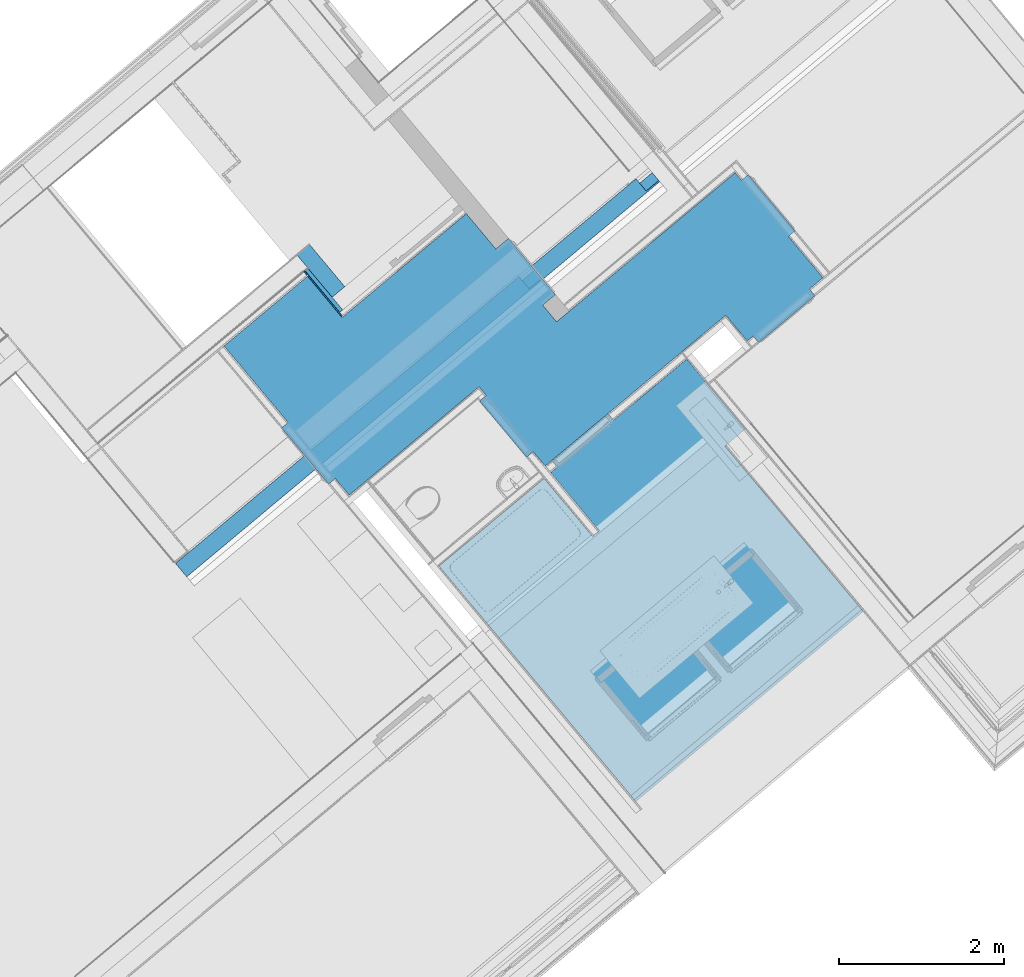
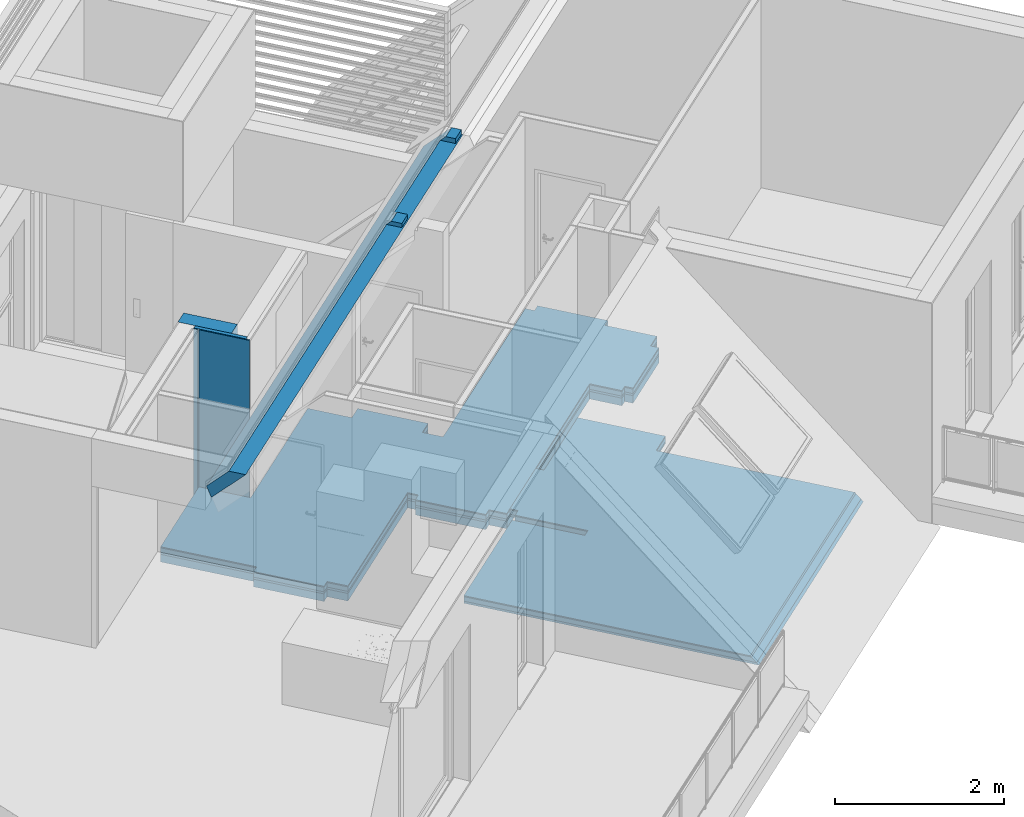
# One storey, part 24 of 47: 11 building element parts, 4 elements without a shape of their own.
"""IFC4 building model written with IfcOpenShell, lengths in metres."""

from ifc_helpers import new_model, entity, si_unit, converted_unit, derived_unit, direction, frame, origin_with_axes, place, context, subcontext, project, spatial, polygons, material, type_object, element, aggregate, save


model = new_model("IFC4")

# Units and contexts
model_context = context("Model", 3, precision=1e-05, world=origin_with_axes(), true_north=direction((0.0, 1.0)))
body_context = subcontext(model_context, "Body", "Model", "MODEL_VIEW")
ifc_project = project(units=[si_unit("LENGTHUNIT", "METRE"), si_unit("AREAUNIT", "SQUARE_METRE"), si_unit("VOLUMEUNIT", "CUBIC_METRE"), converted_unit("PLANEANGLEUNIT", "DEGREE", entity("IfcPlaneAngleMeasure", 0.0174532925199), si_unit("PLANEANGLEUNIT", "RADIAN"), dimensions=[0, 0, 0, 0, 0, 0, 0]), converted_unit("TIMEUNIT", "Year", entity("IfcTimeMeasure", 31556926.0), si_unit("TIMEUNIT", "SECOND"), dimensions=[0, 0, 1, 0, 0, 0, 0]), si_unit("MASSUNIT", "GRAM", prefix="KILO"), si_unit("THERMODYNAMICTEMPERATUREUNIT", "DEGREE_CELSIUS"), si_unit("LUMINOUSINTENSITYUNIT", "LUMEN"), si_unit("ENERGYUNIT", "JOULE", prefix="MEGA"), derived_unit("THERMALCONDUCTANCEUNIT", [(si_unit("POWERUNIT", "WATT"), 1), (si_unit("LENGTHUNIT", "METRE"), -1), (si_unit("THERMODYNAMICTEMPERATUREUNIT", "KELVIN"), -1)]), derived_unit("SPECIFICHEATCAPACITYUNIT", [(si_unit("ENERGYUNIT", "JOULE"), 1), (si_unit("MASSUNIT", "GRAM", prefix="KILO"), -1), (si_unit("THERMODYNAMICTEMPERATUREUNIT", "KELVIN"), -1)]), derived_unit("MASSDENSITYUNIT", [(si_unit("MASSUNIT", "GRAM", prefix="KILO"), 1), (si_unit("VOLUMEUNIT", "CUBIC_METRE"), -1)])], contexts=[model_context])

# Site, building, storey
site_placement = place(None, frame((-0.00153261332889, -0.00661245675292, 0.0), z_axis=(0.0, 0.0, 1.0), x_axis=(1.0, 0.0, 0.0)))
site = spatial("IfcSite", under=ifc_project, at=site_placement, Name="Site", CompositionType="ELEMENT")
building_placement = place(site_placement, origin_with_axes())
building = spatial("IfcBuilding", under=site, at=building_placement, Name="Building", CompositionType="ELEMENT")
storey_placement = place(building_placement, frame((0.0, 0.0, 8.66), z_axis=(0.0, 0.0, 1.0), x_axis=(1.0, 0.0, 0.0)))
storey = spatial("IfcBuildingStorey", under=building, at=storey_placement, Name="DG2", CompositionType="ELEMENT", Elevation=8.66)

# Roof, building element part
roof_type = type_object("IfcRoofType", Name="Schrägdach Dachaufbau 210", PredefinedType="NOTDEFINED")
roof_placement = place(storey_placement, frame((-2.48918849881, 20.2772455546, 1.00050884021), z_axis=(0.0, 0.0, 1.0), x_axis=(0.767406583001, 0.641160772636, 0.0)))
roof = element("IfcRoof", 1, at=roof_placement, inside=storey, type_object=roof_type, Name="Dach-001", PredefinedType="NOTDEFINED")
ifc_material_1 = material(Name="EPS 1")
building_element_part_1_placement = place(roof_placement, origin_with_axes())
building_element_part_1 = element("IfcBuildingElementPart", 2, at=building_element_part_1_placement, material=ifc_material_1, Name="EPS 1", PredefinedType="NOTDEFINED", context=body_context, shape_type="Tessellation", body=[
    polygons([(7.69581457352, -2.10143885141, 2.18949115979), (7.69581829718, -2.10143885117, 2.11949115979), (7.69581733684, -2.11949115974, 2.11949115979), (7.69586340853, -1.68644110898, 1.68644110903), (7.69585873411, -1.6243090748, 1.83644110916), (7.69582117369, -1.97735912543, 2.18949115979), (7.49584420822, -2.10145155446, 2.18949115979), (7.49584420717, -2.10145155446, 2.11949115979), (5.84511892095, -2.1015564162, 2.11949115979), (5.64511890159, -2.10156912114, 2.11949115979), (5.64519289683, -1.90735912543, 2.11949115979), (0.215441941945, -1.90735912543, 2.11949115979), (0.215482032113, -2.11949115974, 2.11949115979), (7.49591627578, -1.90735912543, 2.11949115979), (5.84519291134, -1.90735912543, 2.11949115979), (0.215318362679, -1.68647600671, 1.68647600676), (0.215334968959, -1.62434397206, 1.83647600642), (7.49589028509, -1.97735912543, 2.18949115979), (5.64517003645, -1.96735912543, 2.17949115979), (5.84517005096, -1.96735912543, 2.17949115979), (5.84511892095, -2.1015564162, 2.17949115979), (5.64511890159, -2.10156912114, 2.17949115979)], [[[1, 2, 3, 4, 5, 6]], [[2, 1, 7, 8]], [[9, 10, 11, 12, 13, 3, 2, 8, 14, 15]], [[3, 13, 16, 4]], [[17, 5, 4, 16]], [[18, 6, 5, 17, 12, 11, 19, 20, 15, 14]], [[7, 1, 6, 18]], [[8, 7, 18, 14]], [[9, 21, 22, 10]], [[10, 22, 19, 11]], [[13, 12, 17, 16]], [[21, 9, 15, 20]], [[22, 21, 20, 19]]], closed=True),
])
aggregate(roof, [building_element_part_1])

# Wall, building element parts
wall_type = type_object("IfcWallType", Name="LB 6,5 cm einfach Vorsatzschale + STB 265", PredefinedType="NOTDEFINED")
wall_placement = place(storey_placement, frame((0.750369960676, 22.1398291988, 0.0), z_axis=(0.0, 0.0, 1.0), x_axis=(-0.641209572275, 0.76736580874, 0.0)))
wall = element("IfcWall", 3, at=wall_placement, inside=storey, type_object=wall_type, Name="Wand-003", PredefinedType="NOTDEFINED")
ifc_material_2 = material(Name="Gipskarton")
building_element_part_2_placement = place(wall_placement, origin_with_axes())
building_element_part_2 = element("IfcBuildingElementPart", 4, at=building_element_part_2_placement, material=ifc_material_2, Name="Gipskarton", PredefinedType="NOTDEFINED", context=body_context, shape_type="Tessellation", body=[
    polygons([(0.457885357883, 0.0, 0.0), (0.457885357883, 2.23517560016e-09, 2.49), (0.457885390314, -0.0149999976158, 2.49), (0.457885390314, -0.015, 0.0), (0.402903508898, 0.0, 0.0), (0.402903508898, 2.23517560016e-09, 2.48999999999), (0.402902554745, -0.0149999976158, 2.48999999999), (0.402902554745, -0.015, 0.0)], [[[1, 2, 3, 4]], [[5, 6, 2, 1]], [[2, 6, 7, 3]], [[4, 3, 7, 8]], [[5, 1, 4, 8]], [[6, 5, 8, 7]]], closed=True),
    polygons([(0.387903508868, 2.23517560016e-09, 2.48999999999), (0.387903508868, 0.0, 0.0), (-0.25, 0.0, 0.0), (-0.25, 2.0594548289e-10, 2.49), (0.387902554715, -0.0149999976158, 2.48999999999), (0.387902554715, -0.015, 0.0), (-0.25, -0.015, 0.0), (-0.25, -0.0149999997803, 2.49)], [[[1, 2, 3, 4]], [[2, 1, 5, 6]], [[3, 2, 6, 7]], [[4, 3, 7, 8]], [[1, 4, 8, 5]], [[6, 5, 8, 7]]], closed=True),
])
ifc_material_3 = material(Name="Mineralwolle weich")
building_element_part_3_placement = place(wall_placement, origin_with_axes())
building_element_part_3 = element("IfcBuildingElementPart", 5, at=building_element_part_3_placement, material=ifc_material_3, Name="Mineralwolle weich", PredefinedType="NOTDEFINED", context=body_context, shape_type="Tessellation", body=[
    polygons([(0.457885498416, -0.064999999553, 2.49), (0.457885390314, -0.0149999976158, 2.49), (-0.2, -0.0149999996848, 2.49), (-0.2, -0.0649999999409, 2.49), (0.457885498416, -0.065, 0.0), (0.457885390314, -0.015, 0.0), (-0.2, -0.015, 0.0), (-0.2, -0.065, 0.0)], [[[1, 2, 3, 4]], [[2, 1, 5, 6]], [[2, 6, 7, 3]], [[3, 7, 8, 4]], [[4, 8, 5, 1]], [[6, 5, 8, 7]]], closed=True),
])
ifc_material_4 = material(Name="Stahlbeton Wand")
building_element_part_4_placement = place(wall_placement, origin_with_axes())
building_element_part_4 = element("IfcBuildingElementPart", 6, at=building_element_part_4_placement, material=ifc_material_4, Name="Stahlbeton Wand", PredefinedType="NOTDEFINED", context=body_context, shape_type="Tessellation", body=[
    polygons([(0.462885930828, -0.265000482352, 2.49), (0.662885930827, -0.265000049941, 2.49), (0.677885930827, -0.265000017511, 2.49), (0.0, -0.265, 2.49), (0.0, -0.265, 0.0), (0.462885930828, -0.265000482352, 0.0), (0.462885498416, -0.064999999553, 2.49), (0.662885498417, -0.064999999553, 2.49), (0.677885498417, -0.0649999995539, 2.49), (0.677885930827, -0.265000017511, 2.49), (0.677885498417, -0.0649999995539, 2.49), (0.0, -0.0649999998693, 2.49), (0.0, -0.065, 0.0), (0.462885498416, -0.065, 0.0)], [[[1, 2, 3, 4, 5, 6]], [[2, 1, 7, 8]], [[2, 8, 9, 3]], [[10, 11, 12, 4]], [[5, 4, 12, 13]], [[14, 6, 5, 13]], [[1, 6, 14, 7]], [[7, 14, 13, 12, 11, 8]]], closed=False),
])
aggregate(wall, [building_element_part_2, building_element_part_3, building_element_part_4])

# Covering, building element parts
covering_type = type_object("IfcCoveringType", Name="DE 01 Decke Wohnung/Wohnung Fließen 220", PredefinedType="NOTDEFINED")
covering_1_placement = place(storey_placement, frame((-0.512281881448, 21.5903619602, 0.22), z_axis=(0.0, 0.0, 1.0), x_axis=(1.0, 0.0, 0.0)))
covering_1 = element("IfcCovering", 7, at=covering_1_placement, inside=storey, type_object=covering_type, Name="Decke-004", PredefinedType="NOTDEFINED")
ifc_material_5 = material(Name="Fliesen")
building_element_part_5_placement = place(covering_1_placement, origin_with_axes())
building_element_part_5 = element("IfcBuildingElementPart", 8, at=building_element_part_5_placement, material=ifc_material_5, Name="Fliesen", PredefinedType="NOTDEFINED", context=body_context, shape_type="Tessellation", body=[
    polygons([(0.697399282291, -0.994941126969, -0.015), (1.26931301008, -1.67686102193, -0.015), (1.26931301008, -1.67686102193, 0.0), (0.697399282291, -0.994941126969, 0.0), (0.777850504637, -0.927468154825, -0.015), (0.0, 0.0, -0.015), (1.00913106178, 0.843125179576, -0.015), (1.01392494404, 0.847130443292, -0.015), (1.42295423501, 0.357625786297, -0.015), (1.43208123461, 0.346703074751, -0.015), (1.43257237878, 0.346115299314, -0.015), (2.67114469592, 1.38106423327, -0.015), (2.94076864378, 1.60614434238, -0.015), (3.29799445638, 1.17824883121, -0.015), (3.29801715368, 1.17827549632, -0.015), (3.45152463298, 1.30642248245, -0.015), (3.45155114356, 1.30644458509, -0.015), (4.02190344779, 0.623218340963, -0.015), (3.86836945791, 0.49504925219, -0.015), (4.03594835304, 0.29430602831, -0.015), (6.2030162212, 2.103358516, -0.015), (6.27925010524, 2.0121231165, -0.015), (6.35982447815, 2.07944889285, -0.015), (6.93049131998, 1.39648530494, -0.015), (6.84991694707, 1.32915942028, -0.015), (7.26867794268, 0.827993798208, -0.015), (7.10397840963, 0.690371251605, -0.015), (7.17130548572, 0.609797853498, -0.015), (6.48834980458, 0.0391213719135, -0.015), (6.42102283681, 0.119694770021, -0.015), (6.34875262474, 0.0593058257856, -0.015), (6.0975408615, 0.361146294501, -0.015), (6.09756346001, 0.361165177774, -0.015), (6.08796586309, 0.372651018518, -0.015), (6.0764348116, 0.363057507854, -0.015), (6.01642744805, 0.312915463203, -0.015), (3.89695327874, -1.4568744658, -0.015), (3.75186403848, -1.2832433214, -0.015), (3.67129139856, -1.35057126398, -0.015), (3.10060711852, -0.667622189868, -0.015), (3.18117975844, -0.600294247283, -0.015), (3.09378704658, -0.495709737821, -0.015), (1.51874814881, -1.81087559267, -0.015), (1.34976423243, -1.60938804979, -0.015), (1.34976423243, -1.60938804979, 0.0), (1.51874814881, -1.81087559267, 0.0), (3.09378704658, -0.495709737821, 0.0), (3.18117975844, -0.600294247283, 0.0), (3.10060711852, -0.667622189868, 0.0), (3.67129139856, -1.35057126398, 0.0), (3.75186403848, -1.2832433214, 0.0), (3.89695327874, -1.4568744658, 0.0), (6.01642744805, 0.312915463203, 0.0), (6.0764348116, 0.363057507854, 0.0), (6.08794747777, 0.372635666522, 0.0), (6.08796586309, 0.372651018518, 0.0), (6.09756346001, 0.361165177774, 0.0), (6.0975408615, 0.361146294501, 0.0), (6.34875262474, 0.0593058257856, 0.0), (6.42102283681, 0.119694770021, 0.0), (6.48834980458, 0.0391213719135, 0.0), (7.17130548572, 0.609797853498, 0.0), (7.10397840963, 0.690371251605, 0.0), (7.26867794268, 0.827993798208, 0.0), (6.84991694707, 1.32915942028, 0.0), (6.93049131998, 1.39648530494, 0.0), (6.35982447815, 2.07944889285, 0.0), (6.27925010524, 2.0121231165, 0.0), (6.2030162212, 2.103358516, 0.0), (4.03594835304, 0.29430602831, 0.0), (3.86836945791, 0.49504925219, 0.0), (4.02190344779, 0.623218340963, 0.0), (3.45155114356, 1.30644458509, 0.0), (3.45152463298, 1.30642248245, 0.0), (3.29801715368, 1.17827549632, 0.0), (3.29799445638, 1.17824883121, 0.0), (2.94076864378, 1.60614434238, 0.0), (2.67114469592, 1.38106423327, 0.0), (1.43257237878, 0.346115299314, 0.0), (1.43208123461, 0.346703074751, 0.0), (1.42295423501, 0.357625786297, 0.0), (1.01392494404, 0.847130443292, 0.0), (1.00913106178, 0.843125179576, 0.0), (0.0, 0.0, 0.0), (0.777850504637, -0.927468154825, 0.0)], [[[1, 2, 3, 4]], [[2, 1, 5, 6, 7, 8, 9, 10, 11, 12, 13, 14, 15, 16, 17, 18, 19, 20, 21, 22, 23, 24, 25, 26, 27, 28, 29, 30, 31, 32, 33, 34, 35, 36, 37, 38, 39, 40, 41, 42, 43, 44]], [[2, 44, 45, 3]], [[4, 3, 45, 46, 47, 48, 49, 50, 51, 52, 53, 54, 55, 56, 57, 58, 59, 60, 61, 62, 63, 64, 65, 66, 67, 68, 69, 70, 71, 72, 73, 74, 75, 76, 77, 78, 79, 80, 81, 82, 83, 84, 85]], [[1, 4, 85, 5]], [[6, 5, 85, 84]], [[6, 84, 83, 82, 8, 7]], [[81, 9, 8, 82]], [[80, 10, 9, 81]], [[11, 10, 80, 79]], [[11, 79, 78, 12]], [[13, 12, 78, 77]], [[76, 14, 13, 77]], [[15, 14, 76, 75]], [[16, 15, 75, 74]], [[16, 74, 73, 17]], [[18, 17, 73, 72]], [[71, 19, 18, 72]], [[20, 19, 71, 70]], [[20, 70, 69, 21]], [[21, 69, 68, 22]], [[23, 22, 68, 67]], [[23, 67, 66, 24]], [[65, 25, 24, 66]], [[64, 26, 25, 65]], [[27, 26, 64, 63]], [[62, 28, 27, 63]], [[29, 28, 62, 61]], [[30, 29, 61, 60]], [[31, 30, 60, 59]], [[58, 32, 31, 59]], [[32, 58, 57, 33]], [[34, 33, 57, 56]], [[35, 34, 56, 55, 54]], [[53, 36, 35, 54]], [[37, 36, 53, 52]], [[38, 37, 52, 51]], [[39, 38, 51, 50]], [[40, 39, 50, 49]], [[41, 40, 49, 48]], [[41, 48, 47, 42]], [[46, 43, 42, 47]], [[45, 44, 43, 46]]], closed=True),
])
ifc_material_6 = material(Name="Estrich")
building_element_part_6_placement = place(covering_1_placement, origin_with_axes())
building_element_part_6 = element("IfcBuildingElementPart", 9, at=building_element_part_6_placement, material=ifc_material_6, Name="Estrich", PredefinedType="NOTDEFINED", context=body_context, shape_type="Tessellation", body=[
    polygons([(0.697399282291, -0.994941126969, -0.08), (1.26931301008, -1.67686102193, -0.08), (1.26931301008, -1.67686102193, -0.015), (0.697399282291, -0.994941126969, -0.015), (0.777850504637, -0.927468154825, -0.08), (0.0, 0.0, -0.08), (1.00913106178, 0.843125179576, -0.08), (1.01392494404, 0.847130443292, -0.08), (1.42295423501, 0.357625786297, -0.08), (1.43208123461, 0.346703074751, -0.08), (1.43257237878, 0.346115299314, -0.08), (2.67114469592, 1.38106423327, -0.08), (2.94076864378, 1.60614434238, -0.08), (3.29799445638, 1.17824883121, -0.08), (3.29801715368, 1.17827549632, -0.08), (3.45152463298, 1.30642248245, -0.08), (3.45155114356, 1.30644458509, -0.08), (4.02190344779, 0.623218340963, -0.08), (3.86836945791, 0.49504925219, -0.08), (4.03594835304, 0.29430602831, -0.08), (6.2030162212, 2.103358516, -0.08), (6.27925010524, 2.0121231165, -0.08), (6.35982447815, 2.07944889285, -0.08), (6.93049131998, 1.39648530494, -0.08), (6.84991694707, 1.32915942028, -0.08), (7.26867794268, 0.827993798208, -0.08), (7.10397840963, 0.690371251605, -0.08), (7.17130548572, 0.609797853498, -0.08), (6.48834980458, 0.0391213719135, -0.08), (6.42102283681, 0.119694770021, -0.08), (6.34875262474, 0.0593058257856, -0.08), (6.0975408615, 0.361146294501, -0.08), (6.09756346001, 0.361165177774, -0.08), (6.08796586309, 0.372651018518, -0.08), (6.0764348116, 0.363057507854, -0.08), (6.01642744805, 0.312915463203, -0.08), (3.89695327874, -1.4568744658, -0.08), (3.75186403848, -1.2832433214, -0.08), (3.67129139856, -1.35057126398, -0.08), (3.10060711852, -0.667622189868, -0.08), (3.18117975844, -0.600294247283, -0.08), (3.09378704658, -0.495709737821, -0.08), (1.51874814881, -1.81087559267, -0.08), (1.34976423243, -1.60938804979, -0.08), (1.34976423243, -1.60938804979, -0.015), (1.51874814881, -1.81087559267, -0.015), (3.09378704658, -0.495709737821, -0.015), (3.18117975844, -0.600294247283, -0.015), (3.10060711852, -0.667622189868, -0.015), (3.67129139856, -1.35057126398, -0.015), (3.75186403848, -1.2832433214, -0.015), (3.89695327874, -1.4568744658, -0.015), (6.01642744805, 0.312915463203, -0.015), (6.0764348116, 0.363057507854, -0.015), (6.08796586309, 0.372651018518, -0.015), (6.09756346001, 0.361165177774, -0.015), (6.0975408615, 0.361146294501, -0.015), (6.34875262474, 0.0593058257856, -0.015), (6.42102283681, 0.119694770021, -0.015), (6.48834980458, 0.0391213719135, -0.015), (7.17130548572, 0.609797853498, -0.015), (7.10397840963, 0.690371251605, -0.015), (7.26867794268, 0.827993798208, -0.015), (6.84991694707, 1.32915942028, -0.015), (6.93049131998, 1.39648530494, -0.015), (6.35982447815, 2.07944889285, -0.015), (6.27925010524, 2.0121231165, -0.015), (6.2030162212, 2.103358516, -0.015), (4.03594835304, 0.29430602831, -0.015), (3.86836945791, 0.49504925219, -0.015), (4.02190344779, 0.623218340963, -0.015), (3.45155114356, 1.30644458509, -0.015), (3.45152463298, 1.30642248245, -0.015), (3.29801715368, 1.17827549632, -0.015), (3.29799445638, 1.17824883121, -0.015), (2.94076864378, 1.60614434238, -0.015), (2.67114469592, 1.38106423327, -0.015), (1.43257237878, 0.346115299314, -0.015), (1.43208123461, 0.346703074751, -0.015), (1.42295423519, 0.357625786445, -0.015), (1.01392494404, 0.847130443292, -0.015), (1.00913106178, 0.843125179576, -0.015), (0.0, 0.0, -0.015), (0.777850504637, -0.927468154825, -0.015)], [[[1, 2, 3, 4]], [[2, 1, 5, 6, 7, 8, 9, 10, 11, 12, 13, 14, 15, 16, 17, 18, 19, 20, 21, 22, 23, 24, 25, 26, 27, 28, 29, 30, 31, 32, 33, 34, 35, 36, 37, 38, 39, 40, 41, 42, 43, 44]], [[2, 44, 45, 3]], [[4, 3, 45, 46, 47, 48, 49, 50, 51, 52, 53, 54, 55, 56, 57, 58, 59, 60, 61, 62, 63, 64, 65, 66, 67, 68, 69, 70, 71, 72, 73, 74, 75, 76, 77, 78, 79, 80, 81, 82, 83, 84]], [[1, 4, 84, 5]], [[6, 5, 84, 83]], [[6, 83, 82, 81, 8, 7]], [[9, 8, 81, 80]], [[79, 10, 9, 80]], [[11, 10, 79, 78]], [[11, 78, 77, 12]], [[13, 12, 77, 76]], [[75, 14, 13, 76]], [[15, 14, 75, 74]], [[16, 15, 74, 73]], [[16, 73, 72, 17]], [[18, 17, 72, 71]], [[70, 19, 18, 71]], [[20, 19, 70, 69]], [[20, 69, 68, 21]], [[21, 68, 67, 22]], [[23, 22, 67, 66]], [[65, 24, 23, 66]], [[64, 25, 24, 65]], [[63, 26, 25, 64]], [[27, 26, 63, 62]], [[61, 28, 27, 62]], [[29, 28, 61, 60]], [[30, 29, 60, 59]], [[31, 30, 59, 58]], [[57, 32, 31, 58]], [[32, 57, 56, 33]], [[33, 56, 55, 34]], [[35, 34, 55, 54]], [[53, 36, 35, 54]], [[37, 36, 53, 52]], [[38, 37, 52, 51]], [[39, 38, 51, 50]], [[40, 39, 50, 49]], [[41, 40, 49, 48]], [[41, 48, 47, 42]], [[46, 43, 42, 47]], [[45, 44, 43, 46]]], closed=True),
])
ifc_material_7 = material(Name="Trittschalldämmung")
building_element_part_7_placement = place(covering_1_placement, origin_with_axes())
building_element_part_7 = element("IfcBuildingElementPart", 10, at=building_element_part_7_placement, material=ifc_material_7, Name="Trittschalldämmung", PredefinedType="NOTDEFINED", context=body_context, shape_type="Tessellation", body=[
    polygons([(0.697399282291, -0.994941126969, -0.11), (1.26931301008, -1.67686102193, -0.11), (1.26931301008, -1.67686102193, -0.08), (0.697399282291, -0.994941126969, -0.08), (0.777850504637, -0.927468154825, -0.11), (0.0, 0.0, -0.11), (1.00913106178, 0.843125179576, -0.11), (1.01392494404, 0.847130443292, -0.11), (1.42295423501, 0.357625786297, -0.11), (1.43208123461, 0.346703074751, -0.11), (1.43257237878, 0.346115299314, -0.11), (2.67114469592, 1.38106423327, -0.11), (2.94076864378, 1.60614434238, -0.11), (3.29799445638, 1.17824883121, -0.11), (3.29801715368, 1.17827549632, -0.11), (3.45152463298, 1.30642248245, -0.11), (3.45155114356, 1.30644458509, -0.11), (4.02190344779, 0.623218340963, -0.11), (3.86836945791, 0.49504925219, -0.11), (4.03594835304, 0.29430602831, -0.11), (6.2030162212, 2.103358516, -0.11), (6.27925010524, 2.0121231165, -0.11), (6.35982447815, 2.07944889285, -0.11), (6.93049131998, 1.39648530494, -0.11), (6.84991694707, 1.32915942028, -0.11), (7.26867794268, 0.827993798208, -0.11), (7.10397840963, 0.690371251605, -0.11), (7.17130548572, 0.609797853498, -0.11), (6.48834980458, 0.0391213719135, -0.11), (6.42102283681, 0.119694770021, -0.11), (6.34875262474, 0.0593058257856, -0.11), (6.0975408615, 0.361146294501, -0.11), (6.09756346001, 0.361165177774, -0.11), (6.08796586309, 0.372651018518, -0.11), (6.0764348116, 0.363057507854, -0.11), (6.01642744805, 0.312915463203, -0.11), (3.89695327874, -1.4568744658, -0.11), (3.75186403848, -1.2832433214, -0.11), (3.67129139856, -1.35057126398, -0.11), (3.10060711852, -0.667622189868, -0.11), (3.18117975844, -0.600294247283, -0.11), (3.09378704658, -0.495709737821, -0.11), (1.51874814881, -1.81087559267, -0.11), (1.34976423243, -1.60938804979, -0.11), (1.34976423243, -1.60938804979, -0.08), (1.51874814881, -1.81087559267, -0.08), (3.09378704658, -0.495709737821, -0.08), (3.18117975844, -0.600294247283, -0.08), (3.10060711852, -0.667622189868, -0.08), (3.67129139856, -1.35057126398, -0.08), (3.75186403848, -1.2832433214, -0.08), (3.89695327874, -1.4568744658, -0.08), (6.01642744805, 0.312915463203, -0.08), (6.0764348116, 0.363057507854, -0.08), (6.08796586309, 0.372651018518, -0.08), (6.09756346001, 0.361165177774, -0.08), (6.0975408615, 0.361146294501, -0.08), (6.34875262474, 0.0593058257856, -0.08), (6.42102283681, 0.119694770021, -0.08), (6.48834980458, 0.0391213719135, -0.08), (7.17130548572, 0.609797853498, -0.08), (7.10397840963, 0.690371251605, -0.08), (7.26867794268, 0.827993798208, -0.08), (6.84991694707, 1.32915942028, -0.08), (6.93049131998, 1.39648530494, -0.08), (6.35982447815, 2.07944889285, -0.08), (6.27925010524, 2.0121231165, -0.08), (6.2030162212, 2.103358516, -0.08), (4.03594835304, 0.29430602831, -0.08), (3.86836945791, 0.49504925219, -0.08), (4.02190344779, 0.623218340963, -0.08), (3.45155114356, 1.30644458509, -0.08), (3.45152463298, 1.30642248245, -0.08), (3.29801715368, 1.17827549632, -0.08), (3.29799445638, 1.17824883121, -0.08), (2.94076864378, 1.60614434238, -0.08), (2.67114469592, 1.38106423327, -0.08), (1.43257237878, 0.346115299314, -0.08), (1.43208123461, 0.346703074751, -0.08), (1.42295423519, 0.357625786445, -0.08), (1.01392494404, 0.847130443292, -0.08), (1.00913106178, 0.843125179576, -0.08), (0.0, 0.0, -0.08), (0.777850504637, -0.927468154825, -0.08)], [[[1, 2, 3, 4]], [[2, 1, 5, 6, 7, 8, 9, 10, 11, 12, 13, 14, 15, 16, 17, 18, 19, 20, 21, 22, 23, 24, 25, 26, 27, 28, 29, 30, 31, 32, 33, 34, 35, 36, 37, 38, 39, 40, 41, 42, 43, 44]], [[2, 44, 45, 3]], [[4, 3, 45, 46, 47, 48, 49, 50, 51, 52, 53, 54, 55, 56, 57, 58, 59, 60, 61, 62, 63, 64, 65, 66, 67, 68, 69, 70, 71, 72, 73, 74, 75, 76, 77, 78, 79, 80, 81, 82, 83, 84]], [[1, 4, 84, 5]], [[6, 5, 84, 83]], [[6, 83, 82, 81, 8, 7]], [[9, 8, 81, 80]], [[79, 10, 9, 80]], [[11, 10, 79, 78]], [[11, 78, 77, 12]], [[13, 12, 77, 76]], [[75, 14, 13, 76]], [[15, 14, 75, 74]], [[16, 15, 74, 73]], [[16, 73, 72, 17]], [[18, 17, 72, 71]], [[70, 19, 18, 71]], [[20, 19, 70, 69]], [[20, 69, 68, 21]], [[21, 68, 67, 22]], [[23, 22, 67, 66]], [[65, 24, 23, 66]], [[64, 25, 24, 65]], [[63, 26, 25, 64]], [[63, 62, 27, 26]], [[61, 28, 27, 62]], [[29, 28, 61, 60]], [[30, 29, 60, 59]], [[31, 30, 59, 58]], [[57, 32, 31, 58]], [[32, 57, 56, 33]], [[34, 33, 56, 55]], [[35, 34, 55, 54]], [[53, 36, 35, 54]], [[37, 36, 53, 52]], [[38, 37, 52, 51]], [[39, 38, 51, 50]], [[40, 39, 50, 49]], [[41, 40, 49, 48]], [[41, 48, 47, 42]], [[46, 43, 42, 47]], [[45, 44, 43, 46]]], closed=True),
])
ifc_material_8 = material(Name="Schüttung")
building_element_part_8_placement = place(covering_1_placement, origin_with_axes())
building_element_part_8 = element("IfcBuildingElementPart", 11, at=building_element_part_8_placement, material=ifc_material_8, Name="Schüttung", PredefinedType="NOTDEFINED", context=body_context, shape_type="Tessellation", body=[
    polygons([(0.697399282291, -0.994941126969, -0.22), (1.26931301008, -1.67686102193, -0.22), (1.26931301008, -1.67686102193, -0.11), (0.697399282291, -0.994941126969, -0.11), (0.777850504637, -0.927468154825, -0.22), (0.0, 0.0, -0.22), (1.00913106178, 0.843125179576, -0.22), (1.01392494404, 0.847130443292, -0.22), (1.42295423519, 0.357625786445, -0.22), (1.43208123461, 0.346703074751, -0.22), (1.43257237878, 0.346115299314, -0.22), (2.67114469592, 1.38106423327, -0.22), (2.94076864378, 1.60614434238, -0.22), (3.29799445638, 1.17824883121, -0.22), (3.29801715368, 1.17827549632, -0.22), (3.4515246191, 1.30642249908, -0.22), (3.45155114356, 1.30644458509, -0.22), (4.02190344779, 0.623218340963, -0.22), (3.86836945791, 0.49504925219, -0.22), (4.03594835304, 0.29430602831, -0.22), (6.2030162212, 2.103358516, -0.22), (6.27925010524, 2.0121231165, -0.22), (6.35982447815, 2.07944889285, -0.22), (6.93049131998, 1.39648530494, -0.22), (6.84991694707, 1.32915942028, -0.22), (7.26867794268, 0.827993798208, -0.22), (7.10397840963, 0.690371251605, -0.22), (7.17130548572, 0.609797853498, -0.22), (6.48834980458, 0.0391213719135, -0.22), (6.42102283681, 0.119694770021, -0.22), (6.34875262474, 0.0593058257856, -0.22), (6.09754084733, 0.36114628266, -0.22), (6.09756346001, 0.361165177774, -0.22), (6.08796586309, 0.372651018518, -0.22), (6.08794747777, 0.372635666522, -0.22), (6.0764348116, 0.363057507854, -0.22), (6.01642744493, 0.312915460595, -0.22), (3.89695327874, -1.4568744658, -0.22), (3.75186403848, -1.2832433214, -0.22), (3.67129139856, -1.35057126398, -0.22), (3.10060711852, -0.667622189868, -0.22), (3.18117975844, -0.600294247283, -0.22), (3.09378704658, -0.495709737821, -0.22), (1.51874814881, -1.81087559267, -0.22), (1.34976423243, -1.60938804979, -0.22), (1.34976423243, -1.60938804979, -0.11), (1.51874814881, -1.81087559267, -0.11), (3.09378704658, -0.495709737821, -0.11), (3.18117975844, -0.600294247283, -0.11), (3.10060711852, -0.667622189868, -0.11), (3.67129139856, -1.35057126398, -0.11), (3.75186403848, -1.2832433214, -0.11), (3.89695327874, -1.4568744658, -0.11), (6.01642744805, 0.312915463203, -0.11), (6.0764348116, 0.363057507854, -0.11), (6.08796586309, 0.372651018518, -0.11), (6.09756346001, 0.361165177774, -0.11), (6.0975408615, 0.361146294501, -0.11), (6.34875262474, 0.0593058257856, -0.11), (6.42102283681, 0.119694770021, -0.11), (6.48834980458, 0.0391213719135, -0.11), (7.17130548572, 0.609797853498, -0.11), (7.10397840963, 0.690371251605, -0.11), (7.26867794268, 0.827993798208, -0.11), (6.84991694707, 1.32915942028, -0.11), (6.93049131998, 1.39648530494, -0.11), (6.35982447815, 2.07944889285, -0.11), (6.27925010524, 2.0121231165, -0.11), (6.2030162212, 2.103358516, -0.11), (4.03594835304, 0.29430602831, -0.11), (3.86836945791, 0.49504925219, -0.11), (4.02190344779, 0.623218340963, -0.11), (3.45155114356, 1.30644458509, -0.11), (3.45152463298, 1.30642248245, -0.11), (3.29801715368, 1.17827549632, -0.11), (3.29799445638, 1.17824883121, -0.11), (2.94076864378, 1.60614434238, -0.11), (2.67114469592, 1.38106423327, -0.11), (1.43257237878, 0.346115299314, -0.11), (1.43208123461, 0.346703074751, -0.11), (1.42295423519, 0.357625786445, -0.11), (1.01392494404, 0.847130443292, -0.11), (1.00913106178, 0.843125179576, -0.11), (0.0, 0.0, -0.11), (0.777850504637, -0.927468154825, -0.11)], [[[1, 2, 3, 4]], [[1, 5, 6, 7, 8, 9, 10, 11, 12, 13, 14, 15, 16, 17, 18, 19, 20, 21, 22, 23, 24, 25, 26, 27, 28, 29, 30, 31, 32, 33, 34, 35, 36, 37, 38, 39, 40, 41, 42, 43, 44, 45, 2]], [[2, 45, 46, 3]], [[4, 3, 46, 47, 48, 49, 50, 51, 52, 53, 54, 55, 56, 57, 58, 59, 60, 61, 62, 63, 64, 65, 66, 67, 68, 69, 70, 71, 72, 73, 74, 75, 76, 77, 78, 79, 80, 81, 82, 83, 84, 85]], [[5, 1, 4, 85]], [[6, 5, 85, 84]], [[6, 84, 83, 82, 8, 7]], [[9, 8, 82, 81]], [[10, 9, 81, 80]], [[11, 10, 80, 79]], [[11, 79, 78, 12]], [[13, 12, 78, 77]], [[76, 14, 13, 77]], [[15, 14, 76, 75]], [[16, 15, 75, 74]], [[16, 74, 73, 17]], [[18, 17, 73, 72]], [[19, 18, 72, 71]], [[20, 19, 71, 70]], [[20, 70, 69, 21]], [[21, 69, 68, 22]], [[23, 22, 68, 67]], [[66, 24, 23, 67]], [[25, 24, 66, 65]], [[26, 25, 65, 64]], [[27, 26, 64, 63]], [[28, 27, 63, 62]], [[29, 28, 62, 61]], [[30, 29, 61, 60]], [[31, 30, 60, 59]], [[58, 32, 31, 59]], [[33, 32, 58, 57]], [[34, 33, 57, 56]], [[36, 35, 34, 56, 55]], [[37, 36, 55, 54]], [[53, 38, 37, 54]], [[39, 38, 53, 52]], [[40, 39, 52, 51]], [[41, 40, 51, 50]], [[42, 41, 50, 49]], [[42, 49, 48, 43]], [[47, 44, 43, 48]], [[46, 45, 44, 47]]], closed=True),
])
aggregate(covering_1, [building_element_part_5, building_element_part_6, building_element_part_7, building_element_part_8])

covering_2_placement = place(storey_placement, frame((2.09467668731, 18.9197573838, 0.22), z_axis=(0.0, 0.0, 1.0), x_axis=(1.0, 0.0, 0.0)))
covering_2 = element("IfcCovering", 12, at=covering_2_placement, inside=storey, type_object=covering_type, Name="Decke-004", PredefinedType="NOTDEFINED")
building_element_part_9_placement = place(covering_2_placement, origin_with_axes())
building_element_part_9 = element("IfcBuildingElementPart", 13, at=building_element_part_9_placement, material=ifc_material_5, Name="Fliesen", PredefinedType="NOTDEFINED", context=body_context, shape_type="Tessellation", body=[
    polygons([(5.08131622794, -0.465412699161, 0.0), (5.09094186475, -0.476916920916, -0.015), (3.47398432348, 1.4556137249, -0.015), (3.47398432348, 1.4556137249, 0.0), (2.32907797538, -2.787318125, -0.015), (2.3194598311, -2.77580763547, 0.0), (-1.06147566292e-08, -8.86967299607e-09, -0.015), (1.2767194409, 1.06586618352, -0.015), (1.86547422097, 0.361291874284, -0.015), (1.94604688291, 0.428619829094, -0.015), (1.35732264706, 1.13315751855, -0.015), (1.4371327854, 1.19978686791, -0.015), (1.36984145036, 1.28038999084, -0.015), (2.05304928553, 1.85076447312, -0.015), (2.12034062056, 1.77016126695, -0.015), (3.00782256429, 2.51107347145, -0.015), (3.25962648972, 2.20972776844, -0.015), (3.26924463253, 2.19821728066, -0.015), (3.71929949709, 1.66087009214, -0.015), (3.71929949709, 1.66087009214, 0.0), (3.26924463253, 2.19821728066, 0.0), (3.25962648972, 2.20972776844, 0.0), (3.00782256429, 2.51107347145, 0.0), (2.12034062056, 1.77016126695, 0.0), (2.05304928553, 1.85076447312, 0.0), (1.36984145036, 1.28038999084, 0.0), (1.4371327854, 1.19978686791, 0.0), (1.35732264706, 1.13315751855, 0.0), (1.94604688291, 0.428619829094, 0.0), (1.86547422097, 0.361291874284, 0.0), (1.2767194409, 1.06586618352, 0.0), (-1.06147566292e-08, -8.86967299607e-09, 0.0)], [[[1, 2, 3, 4]], [[5, 2, 1, 6]], [[2, 5, 7, 8, 9, 10, 11, 12, 13, 14, 15, 16, 17, 18, 19, 3]], [[3, 19, 20, 4]], [[6, 1, 4, 20, 21, 22, 23, 24, 25, 26, 27, 28, 29, 30, 31, 32]], [[5, 6, 32, 7]], [[8, 7, 32, 31]], [[30, 9, 8, 31]], [[29, 10, 9, 30]], [[28, 11, 10, 29]], [[27, 12, 11, 28]], [[26, 13, 12, 27]], [[25, 14, 13, 26]], [[24, 15, 14, 25]], [[24, 23, 16, 15]], [[16, 23, 22, 17]], [[18, 17, 22, 21]], [[19, 18, 21, 20]]], closed=True),
])
building_element_part_10_placement = place(covering_2_placement, origin_with_axes())
building_element_part_10 = element("IfcBuildingElementPart", 14, at=building_element_part_10_placement, material=ifc_material_6, Name="Estrich", PredefinedType="NOTDEFINED", context=body_context, shape_type="Tessellation", body=[
    polygons([(5.09094186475, -0.476916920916, -0.015), (5.13265295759, -0.526768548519, -0.08), (3.47398432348, 1.4556137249, -0.08), (3.47398432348, 1.4556137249, -0.015), (2.37075660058, -2.83719691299, -0.08), (2.32907797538, -2.787318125, -0.015), (-1.06147566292e-08, -8.86967299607e-09, -0.08), (1.2767194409, 1.06586618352, -0.08), (1.86547422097, 0.361291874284, -0.08), (1.94604688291, 0.428619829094, -0.08), (1.35732264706, 1.13315751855, -0.08), (1.4371327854, 1.19978686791, -0.08), (1.36984145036, 1.28038999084, -0.08), (2.05304928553, 1.85076447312, -0.08), (2.12034062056, 1.77016126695, -0.08), (3.00782256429, 2.51107347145, -0.08), (3.25962648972, 2.20972776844, -0.08), (3.26924463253, 2.19821728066, -0.08), (3.71929949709, 1.66087009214, -0.08), (3.71929949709, 1.66087009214, -0.015), (3.26924463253, 2.19821728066, -0.015), (3.25962648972, 2.20972776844, -0.015), (3.00782256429, 2.51107347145, -0.015), (2.12034062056, 1.77016126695, -0.015), (2.05304928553, 1.85076447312, -0.015), (1.36984145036, 1.28038999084, -0.015), (1.4371327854, 1.19978686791, -0.015), (1.35732264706, 1.13315751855, -0.015), (1.94604688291, 0.428619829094, -0.015), (1.86547422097, 0.361291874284, -0.015), (1.2767194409, 1.06586618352, -0.015), (-1.06147566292e-08, -8.86967299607e-09, -0.015)], [[[1, 2, 3, 4]], [[5, 2, 1, 6]], [[2, 5, 7, 8, 9, 10, 11, 12, 13, 14, 15, 16, 17, 18, 19, 3]], [[3, 19, 20, 4]], [[6, 1, 4, 20, 21, 22, 23, 24, 25, 26, 27, 28, 29, 30, 31, 32]], [[5, 6, 32, 7]], [[8, 7, 32, 31]], [[30, 9, 8, 31]], [[29, 10, 9, 30]], [[28, 11, 10, 29]], [[27, 12, 11, 28]], [[26, 13, 12, 27]], [[25, 14, 13, 26]], [[24, 15, 14, 25]], [[24, 23, 16, 15]], [[16, 23, 22, 17]], [[18, 17, 22, 21]], [[19, 18, 21, 20]]], closed=True),
])
building_element_part_11_placement = place(covering_2_placement, origin_with_axes())
building_element_part_11 = element("IfcBuildingElementPart", 15, at=building_element_part_11_placement, material=ifc_material_7, Name="Trittschalldämmung", PredefinedType="NOTDEFINED", context=body_context, shape_type="Tessellation", body=[
    polygons([(5.13265295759, -0.526768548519, -0.08), (5.15190423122, -0.549776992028, -0.11), (3.47398432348, 1.4556137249, -0.11), (3.47398432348, 1.4556137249, -0.08), (2.38999288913, -2.86021789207, -0.11), (2.37075660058, -2.83719691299, -0.08), (-1.06147566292e-08, -8.86967299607e-09, -0.11), (1.2767194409, 1.06586618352, -0.11), (1.86547422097, 0.361291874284, -0.11), (1.94604688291, 0.428619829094, -0.11), (1.35732264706, 1.13315751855, -0.11), (1.4371327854, 1.19978686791, -0.11), (1.36984145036, 1.28038999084, -0.11), (2.05304928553, 1.85076447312, -0.11), (2.12034062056, 1.77016126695, -0.11), (3.00782256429, 2.51107347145, -0.11), (3.25962648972, 2.20972776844, -0.11), (3.26924463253, 2.19821728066, -0.11), (3.71929949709, 1.66087009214, -0.11), (3.71929949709, 1.66087009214, -0.08), (3.26924463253, 2.19821728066, -0.08), (3.25962648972, 2.20972776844, -0.08), (3.00782256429, 2.51107347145, -0.08), (2.12034062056, 1.77016126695, -0.08), (2.05304928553, 1.85076447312, -0.08), (1.36984145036, 1.28038999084, -0.08), (1.4371327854, 1.19978686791, -0.08), (1.35732264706, 1.13315751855, -0.08), (1.94604688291, 0.428619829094, -0.08), (1.86547422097, 0.361291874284, -0.08), (1.2767194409, 1.06586618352, -0.08), (-1.06147566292e-08, -8.86967299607e-09, -0.08)], [[[1, 2, 3, 4]], [[5, 2, 1, 6]], [[2, 5, 7, 8, 9, 10, 11, 12, 13, 14, 15, 16, 17, 18, 19, 3]], [[3, 19, 20, 4]], [[6, 1, 4, 20, 21, 22, 23, 24, 25, 26, 27, 28, 29, 30, 31, 32]], [[5, 6, 32, 7]], [[8, 7, 32, 31]], [[30, 9, 8, 31]], [[29, 10, 9, 30]], [[28, 11, 10, 29]], [[27, 12, 11, 28]], [[26, 13, 12, 27]], [[25, 14, 13, 26]], [[24, 15, 14, 25]], [[24, 23, 16, 15]], [[16, 23, 22, 17]], [[18, 17, 22, 21]], [[19, 18, 21, 20]]], closed=True),
])
aggregate(covering_2, [building_element_part_9, building_element_part_10, building_element_part_11])

save(model, "model.ifc")
